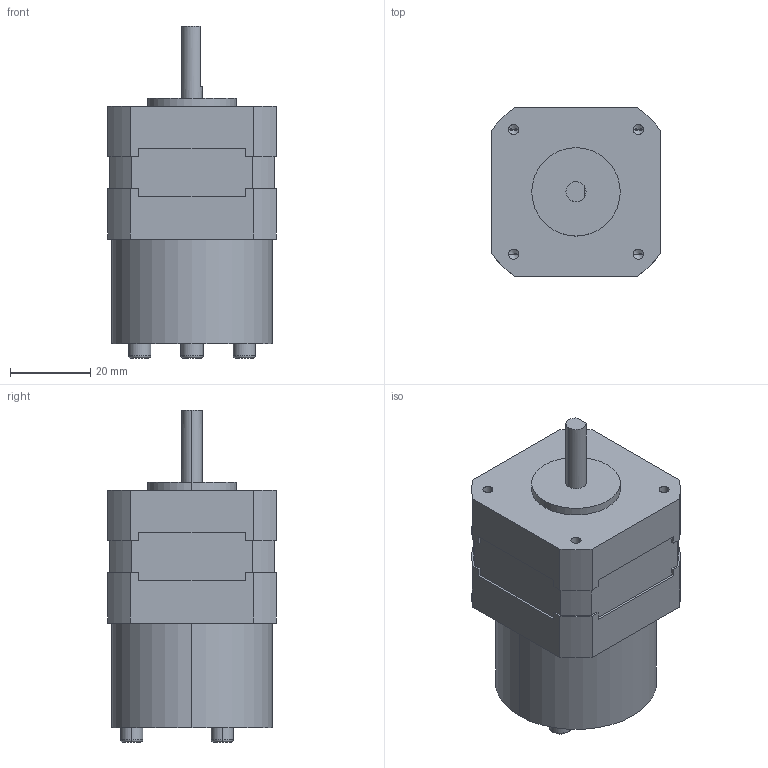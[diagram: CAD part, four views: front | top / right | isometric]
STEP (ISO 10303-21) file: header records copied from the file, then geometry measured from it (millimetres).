
FILE_DESCRIPTION (( 'STEP AP214' ), '1' );
FILE_NAME ('K243-01M.STEP', '2016-09-08T08:50:19', ( 'hoho' ), ( '' ), 'SwSTEP 2.0', 'SolidWorks 2013', '' );
FILE_SCHEMA (( 'AUTOMOTIVE_DESIGN' ));
Length unit declared in the file: millimetre
Products named in the file (1): K243-01M
Bounding box: 42 x 42 x 82.6 mm (x, y, z)
Volume: 89387 mm3; surface area: 12717.8 mm2
Topology: 1 solids, 1 shells, 100 faces, 262 edges, 166 vertices
Faces by surface type: plane 54, cylinder 32, cone 8, torus 6
Entity records: 3226 total; most frequent: DIRECTION 534, CARTESIAN_POINT 521, ORIENTED_EDGE 508, EDGE_CURVE 254, AXIS2_PLACEMENT_3D 179, LINE 176, VECTOR 176, VERTEX_POINT 166
